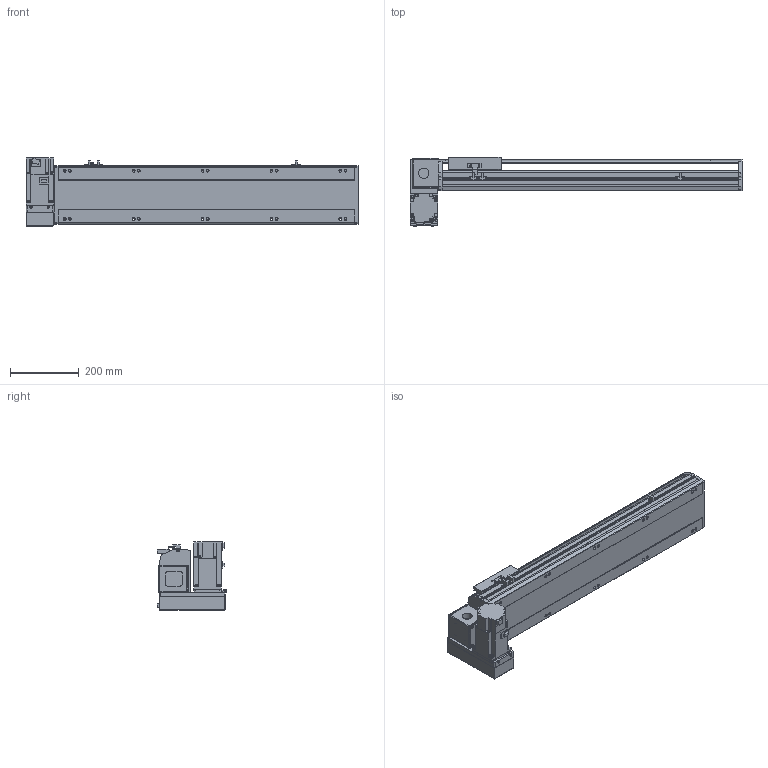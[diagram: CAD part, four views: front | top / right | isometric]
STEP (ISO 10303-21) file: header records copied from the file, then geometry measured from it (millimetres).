
FILE_DESCRIPTION( ( 'STEP AP214' ), '1' );
FILE_NAME( 'x:/temp/worker_3/temp/exporttempdir_5412_6_lTAI5/format_0/PBS170-P40-S600-LD-T75-C1-N(0).stp', '2022-06-07T07:50:48', ( 'License CC BY-ND 4.0' ), ( 'CADENAS' ), ' ', 'PARTsolutions', ' ' );
FILE_SCHEMA( ( 'AUTOMOTIVE_DESIGN { 1 0 10303 214 1 1 1 1 }' ) );
Length unit declared in the file: millimetre
Products named in the file (7): PBS170-P40-S600-LD-T75-C1-N(0); _PBS170-S600()_body; _PBS170T-LD_motors; _T75-p1; _PBS170_sliser; _PBS170_plant; _PBS170_sensor
Assembly tree (8 placements, depth 2):
  PBS170-P40-S600-LD-T75-C1-N(0)
    _PBS170-S600()_body
    _PBS170T-LD_motors
    _T75-p1
    _PBS170_sliser
    _PBS170_plant
    _PBS170_sensor  x3
Bounding box: 963 x 201 x 197.3 mm (x, y, z)
Volume: 8142545.9 mm3; surface area: 1095428.3 mm2
Topology: 8 solids, 8 shells, 1034 faces, 2755 edges, 1796 vertices
Faces by surface type: plane 669, cylinder 315, cone 40, sphere 8, torus 2
Full cylindrical faces by diameter (mm): 3.242 x4, 4 x2, 4.4 x4, 4.5 x6, 4.917 x4, 6 x9, 6.647 x18, 7 x2, 7.5 x4, 8 x8, 8.5 x10, 10 x4, 10.5 x10, 11 x2, 30 x2, 40 x1, 70 x1
Entity records: 37814 total; most frequent: CARTESIAN_POINT 5717, DIRECTION 5090, ORIENTED_EDGE 4848, EDGE_CURVE 2424, AXIS2_PLACEMENT_3D 1747, VERTEX_POINT 1658, LINE 1596, VECTOR 1596
